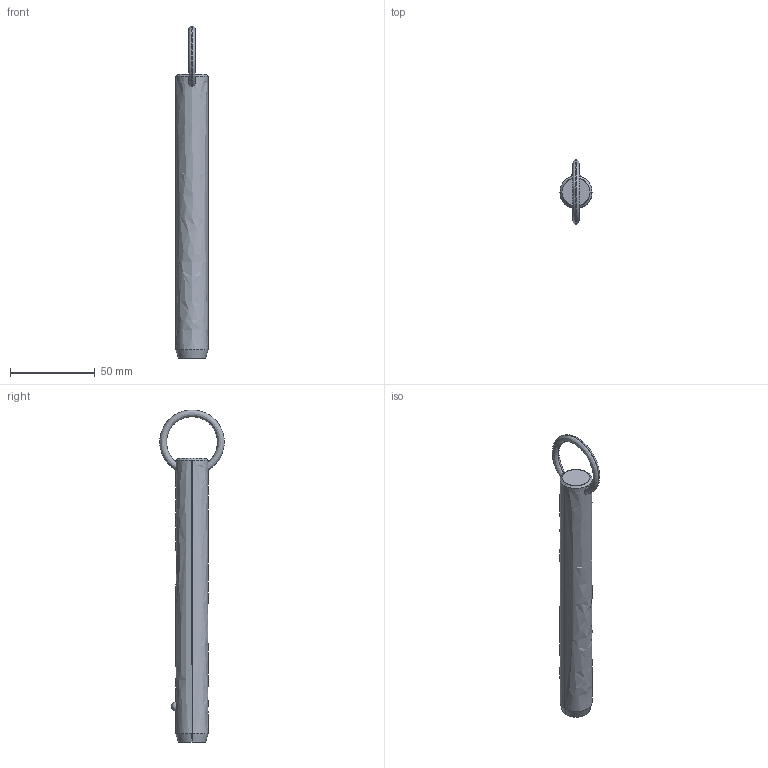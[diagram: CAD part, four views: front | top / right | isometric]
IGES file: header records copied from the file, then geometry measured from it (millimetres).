
Start section: SolidWorks IGES file using analytic representation for surfaces
Global section: file name: C:\Users\liam_\OneDrive\Documents\WORK\Work for WixRoyd\Job Files\J-00019 - Matt Davis CAD Checking\04. CAD Drawings\automotion20190605\P1250.2_v2\P1250.2_v2_20190729_IGES\P1250.075-530.igs; native system: SolidWorks 2017; preprocessor: SolidWorks 2017; author: liam_; date: 190729.235707; units: millimetre
Bounding box: 19 x 38.05 x 196.4 mm (x, y, z)
Surface area: 11548.8 mm2 (no closed solid volume)
Topology: 0 solids, 0 shells, 12 faces, 294 edges, 292 vertices
Faces by surface type: revolution 8, bspline 4
